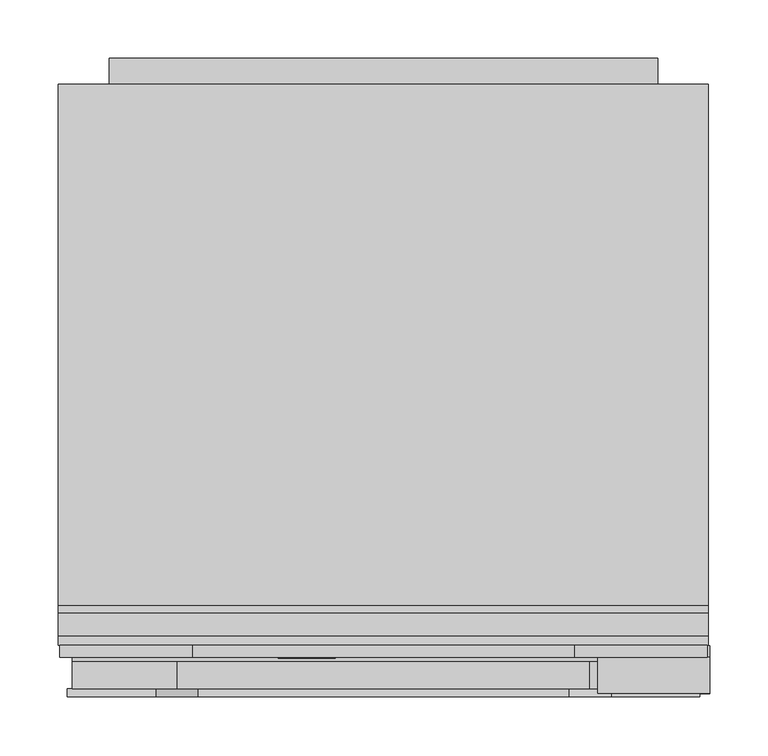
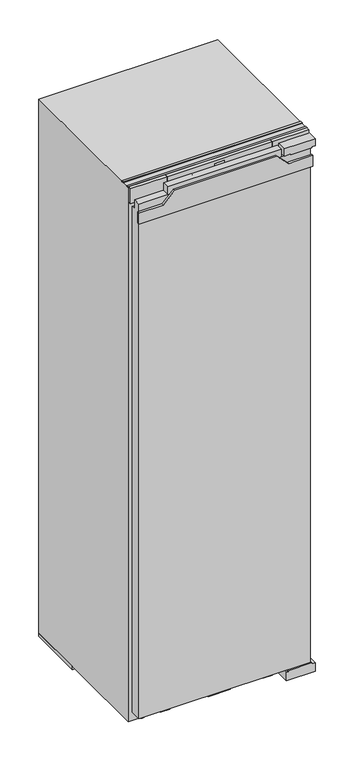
"""IFC4 building model written with IfcOpenShell, lengths in millimetres: proxy geometry, 12444390_EU1_K7716E : 36771600_EU1_12444390_K7716E."""

from ifc_helpers import new_model, si_unit, point, frame, frame_2d, origin, origin_with_axes, place, context, project, spatial, polyline, circle_curve, ellipse_curve, trimmed, segment, composite_curve, outline, extrude, faceted_brep, source, transform, mapped, element, save
from ifc_brep_helpers import plane_surface, cylinder_surface, revolved_surface, extruded_surface, advanced_brep


def specialty_equipment_c8690607(model_context):
    return source(origin(), model_context, "Body", "SolidModel", [
        advanced_brep(
        [(-46.64, 33.0, 1742.896), (-46.64, 33.0, 1743.704), (-41.288, 33.0, 1743.704), (-50.6, 33.0, 1743.704), (-48.4, 33.0, 1741.0), (-41.424, 33.0, 1742.896), (-43.84, 33.0, 1742.896), (-45.744, 33.0, 1742.0), (-46.64, 33.0, 1744.728), (-46.64, 33.0, 1745.6), (-45.272, 33.0, 1745.6), (-45.272, 33.0, 1744.728), (-46.64, 34.0, 1742.896), (-45.744, 34.0, 1742.0), (-43.84, 34.0, 1742.896), (-41.424, 34.0, 1742.896), (-48.4, 34.0, 1741.0), (-50.6, 34.0, 1743.704), (-41.288, 34.0, 1743.704), (-46.64, 34.0, 1743.704), (-46.64, 34.0, 1744.728), (-45.272, 34.0, 1744.728), (-45.272, 34.0, 1745.6), (-46.64, 34.0, 1745.6)],
        [
            (0, 1),
            (1, 2),
            (2, 3, ellipse_curve(frame((-45.944, 33.0, 1743.704), z_axis=(0.0, -1.0, 0.0), x_axis=(-1.0, 0.0, 0.0)), 4.656, 3.848)),
            (3, 4, circle_curve(frame((-47.5039564, 33.0, 1743.976), z_axis=(0.0, -1.0, 0.0), x_axis=(0.0, 0.0, -1.0)), 3.1079688)),
            (4, 5, circle_curve(frame((-46.0372064, 33.0, 1746.088), z_axis=(0.0, -1.0, 0.0), x_axis=(0.0, 0.0, -1.0)), 5.6098607)),
            (5, 6),
            (6, 7, circle_curve(frame((-45.3529412, 33.0, 1743.64), z_axis=(0.0, 1.0, 0.0), x_axis=(0.0, 0.0, -1.0)), 1.6859795)),
            (7, 0, circle_curve(frame((-45.744, 33.0, 1742.896), z_axis=(0.0, 1.0, 0.0), x_axis=(0.0, 0.0, -1.0)), 0.896)),
            (8, 9),
            (9, 10, circle_curve(frame((-45.956, 33.0, 1745.6), z_axis=(0.0, 1.0, 0.0), x_axis=(0.0, 0.0, -1.0)), 0.684)),
            (10, 11),
            (11, 8),
            (12, 13, circle_curve(frame((-45.744, 34.0, 1742.896), z_axis=(0.0, -1.0, 0.0), x_axis=(0.0, 0.0, -1.0)), 0.896)),
            (13, 14, circle_curve(frame((-45.3529412, 34.0, 1743.64), z_axis=(0.0, -1.0, 0.0), x_axis=(0.0, 0.0, -1.0)), 1.6859795)),
            (14, 15),
            (15, 16, circle_curve(frame((-46.0372064, 34.0, 1746.088), z_axis=(0.0, 1.0, 0.0), x_axis=(0.0, 0.0, -1.0)), 5.6098607)),
            (16, 17, circle_curve(frame((-47.5039564, 34.0, 1743.976), z_axis=(0.0, 1.0, 0.0), x_axis=(0.0, 0.0, -1.0)), 3.1079688)),
            (17, 18, ellipse_curve(frame((-45.944, 34.0, 1743.704), z_axis=(0.0, 1.0, 0.0), x_axis=(-1.0, 0.0, 0.0)), 4.656, 3.848)),
            (18, 19),
            (19, 12),
            (20, 21),
            (21, 22),
            (22, 23, circle_curve(frame((-45.956, 34.0, 1745.6), z_axis=(0.0, -1.0, 0.0), x_axis=(0.0, 0.0, -1.0)), 0.684)),
            (23, 20),
            (0, 12),
            (19, 1),
            (18, 2),
            (5, 15),
            (14, 6),
            (17, 3),
            (13, 7),
            (16, 4),
            (8, 20),
            (23, 9),
            (22, 10),
            (21, 11),
        ],
        [
            plane_surface(frame((-46.64, 33.0, 1743.704), z_axis=(0.0, -1.0, 0.0), x_axis=(0.0, 0.0, 1.0))),
            plane_surface(frame((-46.64, 34.0, 1743.704), z_axis=(0.0, 1.0, 0.0), x_axis=(0.0, 0.0, -1.0))),
            plane_surface(frame((-46.64, 33.0, 1742.896), z_axis=(1.0, 0.0, 0.0), x_axis=(0.0, 1.0, 0.0))),
            plane_surface(frame((-46.64, 33.0, 1743.704), z_axis=(0.0, 0.0, -1.0), x_axis=(0.0, 1.0, 0.0))),
            plane_surface(frame((-41.424, 33.0, 1742.896), z_axis=(0.0, 0.0, 1.0), x_axis=(0.0, 1.0, 0.0))),
            extruded_surface(trimmed(ellipse_curve(frame((-45.944, 35.0, 1743.704), z_axis=(0.0, -1.0, 0.0), x_axis=(-1.0, 0.0, 0.0)), 4.656, 3.848), [point((-41.288, 35.0, 1743.704))], [point((-50.6, 35.0, 1743.704))], True, "CARTESIAN"), (0.0, -1.0, 0.0), 1.0),
            revolved_surface(polyline([(-45.3529412, 34.0, 1741.9540205), (-45.3529412, 33.0, 1741.9540205)]), (-45.3529412, 34.0, 1743.64), (0.0, 1.0, 0.0)),
            revolved_surface(polyline([(-45.744, 34.0, 1742.0), (-45.744, 33.0, 1742.0)]), (-45.744, 34.0, 1742.896), (0.0, 1.0, 0.0)),
            cylinder_surface(frame((-47.5039564, 34.0, 1743.976), z_axis=(0.0, -1.0, 0.0), x_axis=(0.0, 0.0, -1.0)), 3.1079688),
            cylinder_surface(frame((-46.0372064, 34.0, 1746.088), z_axis=(0.0, -1.0, 0.0), x_axis=(0.0, 0.0, -1.0)), 5.6098607),
            plane_surface(frame((-46.64, 33.0, 1744.728), z_axis=(1.0, 0.0, 0.0), x_axis=(0.0, 1.0, 0.0))),
            revolved_surface(polyline([(-45.956, 34.0, 1744.916), (-45.956, 33.0, 1744.916)]), (-45.956, 34.0, 1745.6), (0.0, 1.0, 0.0)),
            plane_surface(frame((-45.272, 33.0, 1745.6), z_axis=(-1.0, 0.0, 0.0), x_axis=(0.0, 1.0, 0.0))),
            plane_surface(frame((-45.272, 33.0, 1744.728), z_axis=(0.0, 0.0, 1.0), x_axis=(0.0, 1.0, 0.0))),
        ],
        [
            (0, [[1, 2, 3, 4, 5, 6, 7, 8], [9, 10, 11, 12]]),
            (1, [[13, 14, 15, 16, 17, 18, 19, 20], [21, 22, 23, 24]]),
            (2, [[-1, 25, -20, 26]]),
            (3, [[-2, -26, -19, 27]]),
            (4, [[-6, 28, -15, 29]]),
            (5, [[-3, -27, -18, 30]]),
            (6, [[-7, -29, -14, 31]]),
            (7, [[-8, -31, -13, -25]]),
            (8, [[-4, -30, -17, 32]]),
            (9, [[-5, -32, -16, -28]]),
            (10, [[-9, 33, -24, 34]]),
            (11, [[-10, -34, -23, 35]]),
            (12, [[-11, -35, -22, 36]]),
            (13, [[-12, -36, -21, -33]]),
        ],
    ),
        advanced_brep(
        [(-63.336, 33.0, 1742.896), (-63.336, 33.0, 1743.704), (-57.984, 33.0, 1743.704), (-67.296, 33.0, 1743.704), (-65.096, 33.0, 1741.0), (-58.12, 33.0, 1742.896), (-60.536, 33.0, 1742.896), (-62.44, 33.0, 1742.0), (-63.336, 33.0, 1744.728), (-63.336, 33.0, 1745.6), (-61.968, 33.0, 1745.6), (-61.968, 33.0, 1744.728), (-63.336, 34.0, 1742.896), (-62.44, 34.0, 1742.0), (-60.536, 34.0, 1742.896), (-58.12, 34.0, 1742.896), (-65.096, 34.0, 1741.0), (-67.296, 34.0, 1743.704), (-57.984, 34.0, 1743.704), (-63.336, 34.0, 1743.704), (-63.336, 34.0, 1744.728), (-61.968, 34.0, 1744.728), (-61.968, 34.0, 1745.6), (-63.336, 34.0, 1745.6)],
        [
            (0, 1),
            (1, 2),
            (2, 3, ellipse_curve(frame((-62.64, 33.0, 1743.704), z_axis=(0.0, -1.0, 0.0), x_axis=(-1.0, 0.0, 0.0)), 4.656, 3.848)),
            (3, 4, circle_curve(frame((-64.1999564, 33.0, 1743.976), z_axis=(0.0, -1.0, 0.0), x_axis=(0.0, 0.0, -1.0)), 3.1079688)),
            (4, 5, circle_curve(frame((-62.7332064, 33.0, 1746.088), z_axis=(0.0, -1.0, 0.0), x_axis=(0.0, 0.0, -1.0)), 5.6098607)),
            (5, 6),
            (6, 7, circle_curve(frame((-62.0489412, 33.0, 1743.64), z_axis=(0.0, 1.0, 0.0), x_axis=(0.0, 0.0, -1.0)), 1.6859795)),
            (7, 0, circle_curve(frame((-62.44, 33.0, 1742.896), z_axis=(0.0, 1.0, 0.0), x_axis=(0.0, 0.0, -1.0)), 0.896)),
            (8, 9),
            (9, 10, circle_curve(frame((-62.652, 33.0, 1745.6), z_axis=(0.0, 1.0, 0.0), x_axis=(0.0, 0.0, -1.0)), 0.684)),
            (10, 11),
            (11, 8),
            (12, 13, circle_curve(frame((-62.44, 34.0, 1742.896), z_axis=(0.0, -1.0, 0.0), x_axis=(0.0, 0.0, -1.0)), 0.896)),
            (13, 14, circle_curve(frame((-62.0489412, 34.0, 1743.64), z_axis=(0.0, -1.0, 0.0), x_axis=(0.0, 0.0, -1.0)), 1.6859795)),
            (14, 15),
            (15, 16, circle_curve(frame((-62.7332064, 34.0, 1746.088), z_axis=(0.0, 1.0, 0.0), x_axis=(0.0, 0.0, -1.0)), 5.6098607)),
            (16, 17, circle_curve(frame((-64.1999564, 34.0, 1743.976), z_axis=(0.0, 1.0, 0.0), x_axis=(0.0, 0.0, -1.0)), 3.1079688)),
            (17, 18, ellipse_curve(frame((-62.64, 34.0, 1743.704), z_axis=(0.0, 1.0, 0.0), x_axis=(-1.0, 0.0, 0.0)), 4.656, 3.848)),
            (18, 19),
            (19, 12),
            (20, 21),
            (21, 22),
            (22, 23, circle_curve(frame((-62.652, 34.0, 1745.6), z_axis=(0.0, -1.0, 0.0), x_axis=(0.0, 0.0, -1.0)), 0.684)),
            (23, 20),
            (0, 12),
            (19, 1),
            (18, 2),
            (5, 15),
            (14, 6),
            (17, 3),
            (13, 7),
            (16, 4),
            (8, 20),
            (23, 9),
            (22, 10),
            (21, 11),
        ],
        [
            plane_surface(frame((-63.336, 33.0, 1743.704), z_axis=(0.0, -1.0, 0.0), x_axis=(0.0, 0.0, 1.0))),
            plane_surface(frame((-63.336, 34.0, 1743.704), z_axis=(0.0, 1.0, 0.0), x_axis=(0.0, 0.0, -1.0))),
            plane_surface(frame((-63.336, 33.0, 1742.896), z_axis=(1.0, 0.0, 0.0), x_axis=(0.0, 1.0, 0.0))),
            plane_surface(frame((-63.336, 33.0, 1743.704), z_axis=(0.0, 0.0, -1.0), x_axis=(0.0, 1.0, 0.0))),
            plane_surface(frame((-58.12, 33.0, 1742.896), z_axis=(0.0, 0.0, 1.0), x_axis=(0.0, 1.0, 0.0))),
            extruded_surface(trimmed(ellipse_curve(frame((-62.64, 35.0, 1743.704), z_axis=(0.0, -1.0, 0.0), x_axis=(-1.0, 0.0, 0.0)), 4.656, 3.848), [point((-57.984, 35.0, 1743.704))], [point((-67.296, 35.0, 1743.704))], True, "CARTESIAN"), (0.0, -1.0, 0.0), 1.0),
            revolved_surface(polyline([(-62.0489412, 34.0, 1741.9540205), (-62.0489412, 33.0, 1741.9540205)]), (-62.0489412, 34.0, 1743.64), (0.0, 1.0, 0.0)),
            revolved_surface(polyline([(-62.44, 34.0, 1742.0), (-62.44, 33.0, 1742.0)]), (-62.44, 34.0, 1742.896), (0.0, 1.0, 0.0)),
            cylinder_surface(frame((-64.1999564, 34.0, 1743.976), z_axis=(0.0, -1.0, 0.0), x_axis=(0.0, 0.0, -1.0)), 3.1079688),
            cylinder_surface(frame((-62.7332064, 34.0, 1746.088), z_axis=(0.0, -1.0, 0.0), x_axis=(0.0, 0.0, -1.0)), 5.6098607),
            plane_surface(frame((-63.336, 33.0, 1744.728), z_axis=(1.0, 0.0, 0.0), x_axis=(0.0, 1.0, 0.0))),
            revolved_surface(polyline([(-62.652, 34.0, 1744.916), (-62.652, 33.0, 1744.916)]), (-62.652, 34.0, 1745.6), (0.0, 1.0, 0.0)),
            plane_surface(frame((-61.968, 33.0, 1745.6), z_axis=(-1.0, 0.0, 0.0), x_axis=(0.0, 1.0, 0.0))),
            plane_surface(frame((-61.968, 33.0, 1744.728), z_axis=(0.0, 0.0, 1.0), x_axis=(0.0, 1.0, 0.0))),
        ],
        [
            (0, [[1, 2, 3, 4, 5, 6, 7, 8], [9, 10, 11, 12]]),
            (1, [[13, 14, 15, 16, 17, 18, 19, 20], [21, 22, 23, 24]]),
            (2, [[-1, 25, -20, 26]]),
            (3, [[-2, -26, -19, 27]]),
            (4, [[-6, 28, -15, 29]]),
            (5, [[-3, -27, -18, 30]]),
            (6, [[-7, -29, -14, 31]]),
            (7, [[-8, -31, -13, -25]]),
            (8, [[-4, -30, -17, 32]]),
            (9, [[-5, -32, -16, -28]]),
            (10, [[-9, 33, -24, 34]]),
            (11, [[-10, -34, -23, 35]]),
            (12, [[-11, -35, -22, 36]]),
            (13, [[-12, -36, -21, -33]]),
        ],
    ),
        extrude(outline(polyline([(1748.528, -72.08), (1747.232, -71.472), (1748.496, -68.76), (1749.792, -69.36), (1748.528, -72.08)])), frame((0.0, 33.0, 0.0), z_axis=(0.0, 1.0, 0.0), x_axis=(0.0, 0.0, 1.0)), (0.0, 0.0, 1.0), 1.0),
        extrude(outline(polyline([(1747.056, -74.056), (1745.624, -74.056), (1745.624, -73.104), (1742.344, -73.104), (1742.344, -74.056), (1741.0, -74.056), (1741.0, -67.744), (1742.344, -67.744), (1742.344, -68.672), (1747.056, -68.672), (1747.056, -74.056)])), frame((0.0, 33.0, 0.0), z_axis=(0.0, 1.0, 0.0), x_axis=(0.0, 0.0, 1.0)), (0.0, 0.0, 1.0), 1.0),
        extrude(outline(polyline([(1747.696, -57.536), (1747.696, -56.576), (1742.344, -56.576), (1742.344, -57.536), (1741.0, -57.536), (1741.0, -51.048), (1742.344, -51.048), (1742.344, -52.032), (1749.0, -52.032), (1749.0, -57.536), (1747.696, -57.536)])), frame((0.0, 33.0, 0.0), z_axis=(0.0, 1.0, 0.0), x_axis=(0.0, 0.0, 1.0)), (0.0, 0.0, 1.0), 1.0),
        extrude(outline(polyline([(1747.696, -90.0), (1747.696, -89.032), (1742.344, -89.032), (1742.344, -90.0), (1741.0, -90.0), (1741.0, -86.48), (1742.344, -86.48), (1742.344, -87.44), (1745.7471247, -87.44), (1741.0, -83.864), (1745.8152223, -80.272), (1742.344, -80.272), (1742.344, -81.256), (1741.0, -81.256), (1741.0, -74.872), (1742.344, -74.872), (1742.344, -75.888), (1747.696, -75.888), (1747.696, -74.872), (1749.0, -74.872), (1749.0, -79.744), (1746.0, -82.08), (1749.0, -84.424), (1749.0, -90.0), (1747.696, -90.0)])), frame((0.0, 33.0, 0.0), z_axis=(0.0, 1.0, 0.0), x_axis=(0.0, 0.0, 1.0)), (0.0, 0.0, 1.0), 1.0),
        faceted_brep([(163.5, 34.0, 1770.0), (-163.5, 34.0, 1770.0), (-163.5, 34.0, 1721.0), (163.5, 34.0, 1721.0), (15.0, 34.0, 1761.0), (15.0, 34.0, 1731.0), (-15.0, 34.0, 1731.0), (-15.0, 34.0, 1761.0), (163.5, 44.0, 1770.0), (163.5, 44.0, 1721.0), (-163.5, 44.0, 1721.0), (-163.5, 44.0, 1770.0), (15.0, 35.0, 1761.0), (-15.0, 35.0, 1761.0), (-15.0, 35.0, 1731.0), (15.0, 35.0, 1731.0)], [[[0, 1, 2, 3], [4, 5, 6, 7]], [[8, 9, 10, 11]], [[0, 3, 9, 8]], [[3, 2, 10, 9]], [[2, 1, 11, 10]], [[1, 0, 8, 11]], [[12, 13, 14, 15]], [[12, 15, 5, 4]], [[15, 14, 6, 5]], [[14, 13, 7, 6]], [[13, 12, 4, 7]]]),
        extrude(outline(polyline([(163.5, 44.0), (277.5, 44.0), (277.5, 34.0), (163.5, 34.0), (163.5, 44.0)])), frame((0.0, 0.0, 1721.0), z_axis=(0.0, 0.0, 1.0), x_axis=(1.0, 0.0, 0.0)), (0.0, 0.0, 1.0), 49.0),
        extrude(outline(polyline([(-277.5, 44.0), (-163.5, 44.0), (-163.5, 34.0), (-277.5, 34.0), (-277.5, 44.0)])), frame((0.0, 0.0, 1721.0), z_axis=(0.0, 0.0, 1.0), x_axis=(1.0, 0.0, 0.0)), (0.0, 0.0, 1.0), 49.0),
        extrude(outline(polyline([(-15.0, 35.0), (15.0, 35.0), (15.0, 34.0), (-15.0, 34.0), (-15.0, 35.0)])), frame((0.0, 0.0, 1731.0), z_axis=(0.0, 0.0, 1.0), x_axis=(1.0, 0.0, 0.0)), (0.0, 0.0, 1.0), 30.0),
        extrude(outline(polyline([(1647.0, -235.0), (27.0, -235.0), (27.0, 235.0), (130.0, 235.0), (130.0, 170.0), (160.0, 170.0), (160.0, 235.0), (1647.0, 235.0), (1647.0, -235.0)])), frame((0.0, 525.0, 0.0), z_axis=(0.0, 1.0, 0.0), x_axis=(0.0, 0.0, 1.0)), (0.0, 0.0, 1.0), 22.0),
        extrude(outline(polyline([(-144.929185, 52.0), (-174.0, 52.0), (-194.4885559, 345.0), (-165.4177409, 345.0), (-144.929185, 52.0)])), origin_with_axes(), (0.0, 0.0, 1.0), 10.0),
        extrude(outline(polyline([(144.929185, 52.0), (165.4177409, 345.0), (194.4885559, 345.0), (174.0, 52.0), (144.929185, 52.0)])), origin_with_axes(), (0.0, 0.0, 1.0), 10.0),
        extrude(outline(polyline([(538.651012, 148.8988246), (538.651012, 150.150839), (545.8850603, 150.150839), (545.8850603, 140.1043073), (538.5027529, 140.1043073), (538.5027529, 141.3585545), (544.6152499, 141.3585545), (544.6152499, 144.6556887), (538.967462, 144.6556887), (538.967462, 145.9162842), (544.6270824, 145.9162842), (544.6270824, 148.8988246), (538.651012, 148.8988246)])), frame((193.5, 0.0, 0.0), z_axis=(1.0, 0.0, 0.0), x_axis=(0.0, 1.0, 0.0)), (0.0, 0.0, 1.0), 1.0),
        extrude(outline(polyline([(536.624075, 150.150839), (536.624075, 140.1043073), (530.3334819, 140.1043073), (530.3334819, 141.3573374), (535.3334819, 141.3573374), (535.3334819, 150.150839), (536.624075, 150.150839)])), frame((193.5, 0.0, 0.0), z_axis=(1.0, 0.0, 0.0), x_axis=(0.0, 1.0, 0.0)), (0.0, 0.0, 1.0), 1.0),
        advanced_brep(
        [(232.0, 525.0, 145.0), (217.0, 525.0, 145.0), (232.0, 546.5, 145.0), (217.0, 531.5, 145.0), (194.5, 546.5, 145.0), (194.5, 531.5, 145.0)],
        [
            (0, 1, circle_curve(frame((224.5, 525.0, 145.0), z_axis=(0.0, -1.0, 0.0), x_axis=(-1.0, 0.0, 0.0)), 7.5)),
            (1, 0, circle_curve(frame((224.5, 525.0, 145.0), z_axis=(0.0, -1.0, 0.0), x_axis=(-1.0, 0.0, 0.0)), 7.5)),
            (0, 2),
            (2, 3, ellipse_curve(frame((224.5, 539.0, 145.0), z_axis=(0.7071067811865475, -0.7071067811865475, 0.0), x_axis=(-0.7071067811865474, -0.7071067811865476, 0.0)), 10.6066017, 7.5)),
            (3, 1),
            (3, 2, ellipse_curve(frame((224.5, 539.0, 145.0), z_axis=(0.7071067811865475, -0.7071067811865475, 0.0), x_axis=(-0.7071067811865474, -0.7071067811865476, 0.0)), 10.6066017, 7.5)),
            (4, 5, circle_curve(frame((194.5, 539.0, 145.0), z_axis=(-1.0, 0.0, 0.0), x_axis=(0.0, -1.0, 0.0)), 7.5)),
            (5, 4, circle_curve(frame((194.5, 539.0, 145.0), z_axis=(-1.0, 0.0, 0.0), x_axis=(0.0, -1.0, 0.0)), 7.5)),
            (2, 4),
            (5, 3),
        ],
        [
            plane_surface(frame((224.5, 525.0, 145.0), z_axis=(0.0, -1.0, 0.0), x_axis=(0.0, 0.0, 1.0))),
            cylinder_surface(frame((224.5, 525.0, 145.0), z_axis=(0.0, -1.0, 0.0), x_axis=(-1.0, 0.0, 0.0)), 7.5),
            plane_surface(frame((194.5, 539.0, 145.0), z_axis=(-1.0, 0.0, 0.0), x_axis=(0.0, 0.0, 1.0))),
            cylinder_surface(frame((224.5, 539.0, 145.0), z_axis=(1.0, 0.0, 0.0), x_axis=(0.0, -1.0, 0.0)), 7.5),
        ],
        [
            (0, [[1, 2]]),
            (1, [[-1, 3, 4, 5]]),
            (1, [[-2, -5, 6, -3]]),
            (2, [[7, 8]]),
            (3, [[-4, 9, -8, 10]]),
            (3, [[-6, -10, -7, -9]]),
        ],
    ),
        extrude(outline(polyline([(-34.0, 44.0), (34.0, 44.0), (34.0, 35.0), (-34.0, 35.0), (-34.0, 44.0)])), frame((0.0, 0.0, 13.0), z_axis=(0.0, 0.0, 1.0), x_axis=(1.0, 0.0, 0.0)), (0.0, 0.0, 1.0), 19.0),
        extrude(outline(polyline([(-233.5, 44.0), (-233.5, 487.0), (233.5, 487.0), (233.5, 44.0), (-233.5, 44.0)])), frame((0.0, 0.0, 431.0), z_axis=(0.0, 0.0, 1.0), x_axis=(1.0, 0.0, 0.0)), (0.0, 0.0, 1.0), 3.0),
        extrude(outline(polyline([(-233.5, 179.0), (-233.5, 487.0), (233.5, 487.0), (233.5, 179.0), (-233.5, 179.0)])), frame((0.0, 0.0, 1367.0), z_axis=(0.0, 0.0, 1.0), x_axis=(1.0, 0.0, 0.0)), (0.0, 0.0, 1.0), 325.0),
        extrude(outline(polyline([(-233.5, 349.0), (-233.5, 487.0), (233.5, 487.0), (233.5, 349.0), (-233.5, 349.0)])), frame((0.0, 0.0, 62.0), z_axis=(0.0, 0.0, 1.0), x_axis=(1.0, 0.0, 0.0)), (0.0, 0.0, 1.0), 188.0),
        extrude(outline(composite_curve([segment(trimmed(circle_curve(frame_2d((228.0, 64.0)), 11.0), [point((239.0, 64.0))], [point((217.0, 64.0))], False, "CARTESIAN"), True, "CONTINUOUS"), segment(trimmed(circle_curve(frame_2d((228.0, 64.0)), 11.0), [point((217.0, 64.0))], [point((239.0, 64.0))], False, "CARTESIAN"), True, "CONTINUOUS")], self_intersect=False)), origin_with_axes(), (0.0, 0.0, 1.0), 10.0),
        extrude(outline(composite_curve([segment(trimmed(circle_curve(frame_2d((-228.0, 64.0)), 11.0), [point((-217.0, 64.0))], [point((-239.0, 64.0))], False, "CARTESIAN"), True, "CONTINUOUS"), segment(trimmed(circle_curve(frame_2d((-228.0, 64.0)), 11.0), [point((-239.0, 64.0))], [point((-217.0, 64.0))], False, "CARTESIAN"), True, "CONTINUOUS")], self_intersect=False)), origin_with_axes(), (0.0, 0.0, 1.0), 10.0),
        extrude(outline(polyline([(278.5, 525.0), (278.5, 345.0), (-278.5, 345.0), (-278.5, 525.0), (278.5, 525.0)])), origin_with_axes(), (0.0, 0.0, 1.0), 10.0),
        extrude(outline(polyline([(278.5, 52.0), (278.5, 44.0), (-278.5, 44.0), (-278.5, 52.0), (278.5, 52.0)])), frame((0.0, 0.0, 1767.0), z_axis=(0.0, 0.0, 1.0), x_axis=(1.0, 0.0, 0.0)), (0.0, 0.0, 1.0), 3.0),
        extrude(outline(polyline([(278.5, 78.0), (278.5, 72.0), (-278.5, 72.0), (-278.5, 78.0), (278.5, 78.0)])), frame((0.0, 0.0, 1767.0), z_axis=(0.0, 0.0, 1.0), x_axis=(1.0, 0.0, 0.0)), (0.0, 0.0, 1.0), 3.0),
        faceted_brep([(278.5, 525.0, 1767.0), (-278.5, 525.0, 1767.0), (-278.5, 44.0, 1767.0), (278.5, 44.0, 1767.0), (278.5, 525.0, 10.0), (278.5, 44.0, 10.0), (-278.5, 44.0, 10.0), (-278.5, 525.0, 10.0), (233.5, 44.0, 62.0), (-233.5, 44.0, 62.0), (-233.5, 44.0, 570.0), (-233.5, 44.0, 1692.0), (233.5, 44.0, 1692.0), (233.5, 44.0, 570.0), (233.5, 487.0, 1692.0), (-233.5, 487.0, 1692.0), (-233.5, 487.0, 570.0), (-233.5, 487.0, 62.0), (233.5, 487.0, 62.0), (233.5, 487.0, 570.0)], [[[0, 1, 2, 3]], [[4, 5, 6, 7]], [[1, 0, 4, 7]], [[2, 1, 7, 6]], [[3, 2, 6, 5], [8, 9, 10, 11, 12, 13]], [[0, 3, 5, 4]], [[14, 15, 16, 17, 18, 19]], [[18, 8, 13, 12, 14, 19]], [[18, 17, 9, 8]], [[9, 17, 16, 15, 11, 10]], [[15, 14, 12, 11]]]),
        extrude(outline(polyline([(1672.0, 271.0), (1708.0, 271.0), (1708.0, 195.0), (1744.0, 159.0), (1744.0, -159.0), (1708.0, -195.0), (1708.0, -271.0), (1672.0, -271.0), (1672.0, 271.0)])), frame((0.0, 0.0, 0.0), z_axis=(0.0, 1.0, 0.0), x_axis=(0.0, 0.0, 1.0)), (0.0, 0.0, 1.0), 7.0),
        extrude(outline(polyline([(176.5, 7.0), (-176.5, 7.0), (-176.5, 30.0), (176.5, 30.0), (176.5, 7.0)])), frame((0.0, 0.0, 1732.0), z_axis=(0.0, 0.0, 1.0), x_axis=(1.0, 0.0, 0.0)), (0.0, 0.0, 1.0), 25.0),
        extrude(outline(polyline([(7.0, 38.0), (7.0, 1732.0), (30.0, 1732.0), (30.0, 1702.0), (44.0, 1702.0), (44.0, 38.0), (7.0, 38.0)])), frame((-266.5, 0.0, 0.0), z_axis=(1.0, 0.0, 0.0), x_axis=(0.0, 1.0, 0.0)), (0.0, 0.0, 1.0), 533.0),
        extrude(outline(polyline([(34.0, 189.5), (7.0, 189.5), (7.0, 279.5), (34.0, 279.5), (34.0, 268.5), (38.0, 268.5), (38.0, 195.5), (34.0, 195.5), (34.0, 189.5)])), frame((0.0, 3.0, 0.0), z_axis=(0.0, 1.0, 0.0), x_axis=(0.0, 0.0, 1.0)), (0.0, 0.0, 1.0), 41.0),
        extrude(outline(polyline([(1732.0, 203.5), (1732.0, 269.5), (1735.0, 269.5), (1735.0, 279.5), (1759.0, 279.5), (1759.0, 183.5), (1735.0, 183.5), (1735.0, 203.5), (1732.0, 203.5)])), frame((0.0, 3.0, 0.0), z_axis=(0.0, 1.0, 0.0), x_axis=(0.0, 0.0, 1.0)), (0.0, 0.0, 1.0), 31.0),
    ])


if __name__ == "__main__":
    model = new_model("IFC4")
    model_context = context("Model", 3, world=origin())
    ifc_project = project(units=[si_unit("LENGTHUNIT", "METRE", prefix="MILLI")], contexts=[model_context])
    site = spatial("IfcSite", under=ifc_project)
    building = spatial("IfcBuilding", under=site)
    placement = place(None, origin())
    specialty_equipment_shape = specialty_equipment_c8690607(model_context)
    element("IfcBuildingElementProxy", 1, Name="12444390_EU1_K7716E : 36771600_EU1_12444390_K7716E", ObjectType="12444390_EU1_K7716E : 36771600_EU1_12444390_K7716E", at=placement, inside=building, context=model_context, shape_type="MappedRepresentation", body=[
        mapped(specialty_equipment_shape, transform((0.0, 0.0, 0.0), x_axis=(1.0, 0.0, 0.0), y_axis=(0.0, 1.0, 0.0), z_axis=(0.0, 0.0, 1.0))),
    ])
    save(model, "model.ifc")
